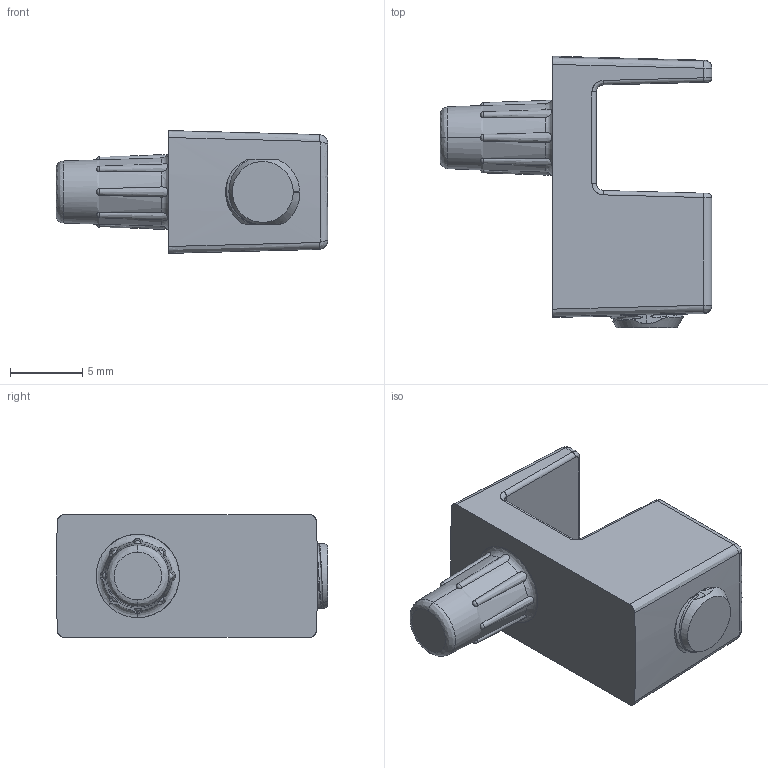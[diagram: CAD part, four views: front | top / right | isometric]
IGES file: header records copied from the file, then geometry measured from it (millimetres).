
Start section:  PTC IGES file: 16120030ya_sw0001.igs
Global section: file name: 16120030ya_sw0001.igs; native system: Creo Parametric by PTC Inc.; preprocessor: 2020053; author: Mattia.Ciol; organization: Unknown; date: 20201118.165247; units: millimetre
Bounding box: 18.8 x 18.79 x 8.5 mm (x, y, z)
Surface area: 962.2 mm2 (no closed solid volume)
Topology: 0 solids, 0 shells, 81 faces, 440 edges, 440 vertices
Faces by surface type: revolution 43, bspline 38
